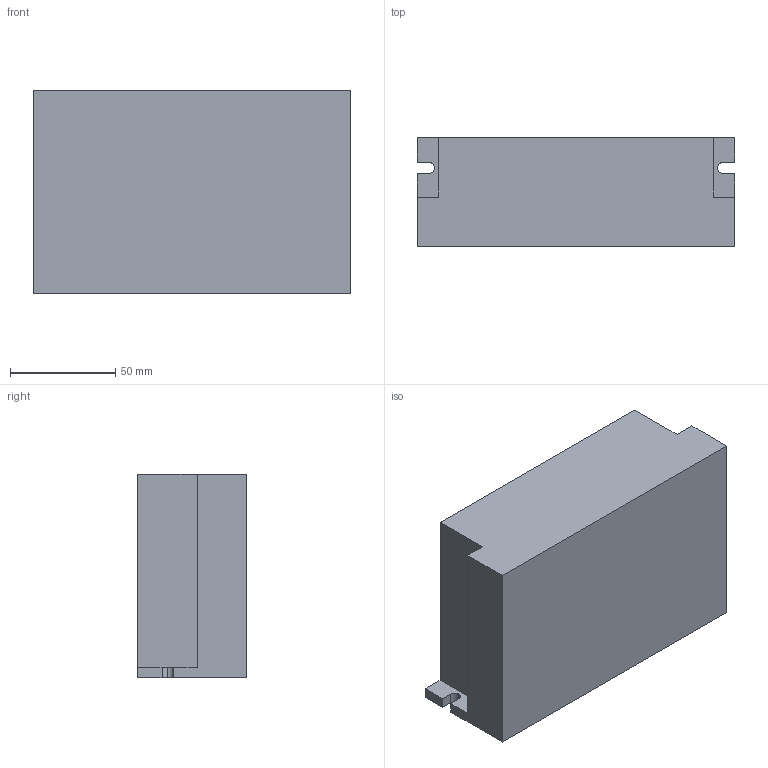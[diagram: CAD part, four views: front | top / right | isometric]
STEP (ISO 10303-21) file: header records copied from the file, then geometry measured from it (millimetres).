
FILE_DESCRIPTION (( 'STEP AP214' ), '1' );
FILE_NAME ('DRV1000.STEP', '2020-10-13T08:20:47', ( 'wimxt.com' ), ( 'wimxt.com' ), 'SwSTEP 2.0', 'SolidWorks 2014', '' );
FILE_SCHEMA (( 'AUTOMOTIVE_DESIGN' ));
Length unit declared in the file: millimetre
Products named in the file (1): DRV1000
Bounding box: 151 x 52 x 97 mm (x, y, z)
Volume: 708782.7 mm3; surface area: 55058.9 mm2
Topology: 1 solids, 1 shells, 21 faces, 57 edges, 38 vertices
Faces by surface type: plane 18, cylinder 3
Entity records: 691 total; most frequent: CARTESIAN_POINT 117, ORIENTED_EDGE 114, DIRECTION 107, EDGE_CURVE 57, VECTOR 51, LINE 51, VERTEX_POINT 38, AXIS2_PLACEMENT_3D 28
